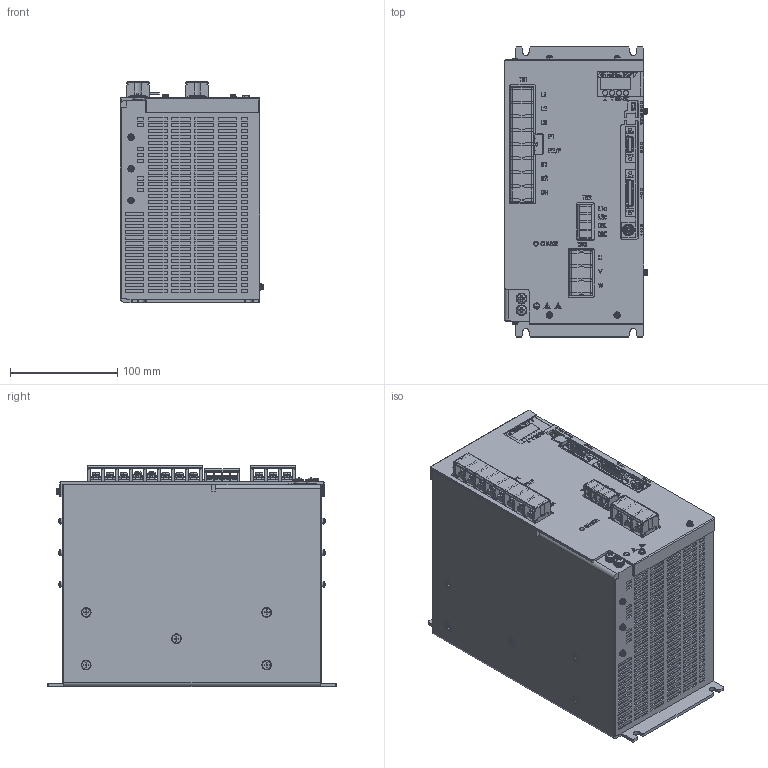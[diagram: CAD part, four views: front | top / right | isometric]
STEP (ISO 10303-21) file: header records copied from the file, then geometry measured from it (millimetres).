
FILE_DESCRIPTION (( 'STEP AP203' ), '1' );
FILE_NAME ('NCR-VA_Serise(332)#SX-05510.STEP', '2025-08-19T00:16:57', ( '' ), ( '' ), 'SwSTEP 2.0', 'SolidWorks 2024', '' );
FILE_SCHEMA (( 'CONFIG_CONTROL_DESIGN' ));
Products named in the file (1): NCR-VA_Serise(332)#SX-05510
Bounding box: 133.45 x 270 x 205.8 mm (x, y, z)
Volume: 5973306.9 mm3; surface area: 283342.4 mm2
Topology: 4 solids, 49 shells, 7535 faces, 20507 edges, 13536 vertices
Faces by surface type: plane 6027, cylinder 790, bspline 436, cone 194, torus 58, sphere 30
Entity records: 258508 total; most frequent: CARTESIAN_POINT 69648, ORIENTED_EDGE 40982, DIRECTION 35589, EDGE_CURVE 20491, VECTOR 16347, LINE 16347, VERTEX_POINT 13536, AXIS2_PLACEMENT_3D 9621
